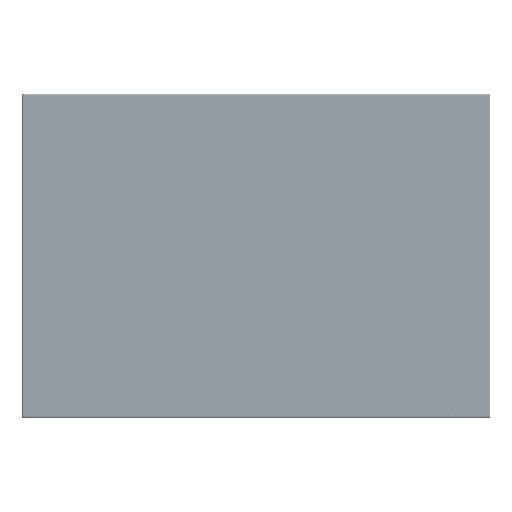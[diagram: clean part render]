
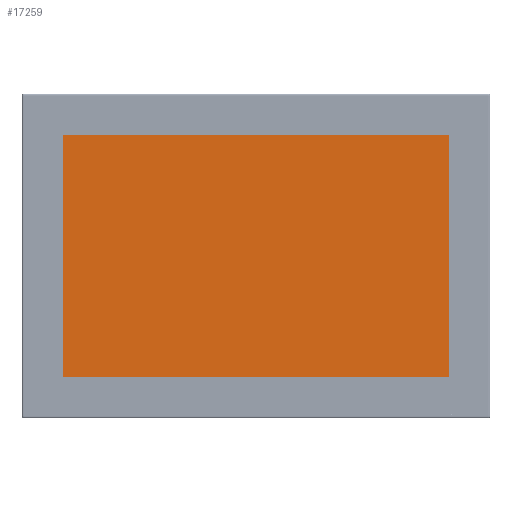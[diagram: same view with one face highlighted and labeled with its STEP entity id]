
A CAD part, top view. The second image highlights one B-rep face of the part: STEP entity #17259.
In plain terms, the highlighted planar face has unit normal (0, 0, 1).
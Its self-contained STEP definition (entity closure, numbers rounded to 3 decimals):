
#759 = ORIENTED_EDGE ( 'NONE', *, *, #16889, .T. ) ;
#3910 = CARTESIAN_POINT ( 'NONE',  ( 0., 0., 0. ) ) ;
#7467 = VERTEX_POINT ( 'NONE', #56032 ) ;
#16777 = CARTESIAN_POINT ( 'NONE',  ( -109.08, -68.4, 0. ) ) ;
#16889 = EDGE_CURVE ( 'NONE', #46773, #7467, #32481, .T. ) ;
#16945 = EDGE_CURVE ( 'NONE', #7467, #78183, #84245, .T. ) ;
#17259 = ADVANCED_FACE ( 'NONE', ( #23055 ), #107046, .T. ) ;
#23055 = FACE_OUTER_BOUND ( 'NONE', #64996, .T. ) ;
#23886 = EDGE_CURVE ( 'NONE', #78183, #42721, #55081, .T. ) ;
#25940 = CARTESIAN_POINT ( 'NONE',  ( 109.08, -68.4, 0. ) ) ;
#32337 = DIRECTION ( 'NONE',  ( 0., 0., 1. ) ) ;
#32481 = LINE ( 'NONE', #70154, #83221 ) ;
#42721 = VERTEX_POINT ( 'NONE', #69792 ) ;
#46773 = VERTEX_POINT ( 'NONE', #102827 ) ;
#52638 = VECTOR ( 'NONE', #61837, 1000. ) ;
#55081 = LINE ( 'NONE', #16777, #108597 ) ;
#56032 = CARTESIAN_POINT ( 'NONE',  ( -109.08, 68.4, 0. ) ) ;
#61837 = DIRECTION ( 'NONE',  ( 0., 1., 0. ) ) ;
#64996 = EDGE_LOOP ( 'NONE', ( #97042, #108623, #759, #109793 ) ) ;
#69792 = CARTESIAN_POINT ( 'NONE',  ( 109.08, -68.4, 0. ) ) ;
#70007 = DIRECTION ( 'NONE',  ( 1., 0., 0. ) ) ;
#70154 = CARTESIAN_POINT ( 'NONE',  ( 109.08, 68.4, 0. ) ) ;
#71523 = AXIS2_PLACEMENT_3D ( 'NONE', #3910, #32337, #70007 ) ;
#78183 = VERTEX_POINT ( 'NONE', #107756 ) ;
#79740 = LINE ( 'NONE', #25940, #52638 ) ;
#83221 = VECTOR ( 'NONE', #107783, 1000. ) ;
#84245 = LINE ( 'NONE', #100933, #106847 ) ;
#86012 = EDGE_CURVE ( 'NONE', #42721, #46773, #79740, .T. ) ;
#92711 = DIRECTION ( 'NONE',  ( 1., 0., 0. ) ) ;
#97042 = ORIENTED_EDGE ( 'NONE', *, *, #23886, .T. ) ;
#100933 = CARTESIAN_POINT ( 'NONE',  ( -109.08, 68.4, 0. ) ) ;
#102827 = CARTESIAN_POINT ( 'NONE',  ( 109.08, 68.4, 0. ) ) ;
#106847 = VECTOR ( 'NONE', #120674, 1000. ) ;
#107046 = PLANE ( 'NONE',  #71523 ) ;
#107756 = CARTESIAN_POINT ( 'NONE',  ( -109.08, -68.4, 0. ) ) ;
#107783 = DIRECTION ( 'NONE',  ( -1., 0., 0. ) ) ;
#108597 = VECTOR ( 'NONE', #92711, 1000. ) ;
#108623 = ORIENTED_EDGE ( 'NONE', *, *, #86012, .T. ) ;
#109793 = ORIENTED_EDGE ( 'NONE', *, *, #16945, .T. ) ;
#120674 = DIRECTION ( 'NONE',  ( 0., -1., 0. ) ) ;
